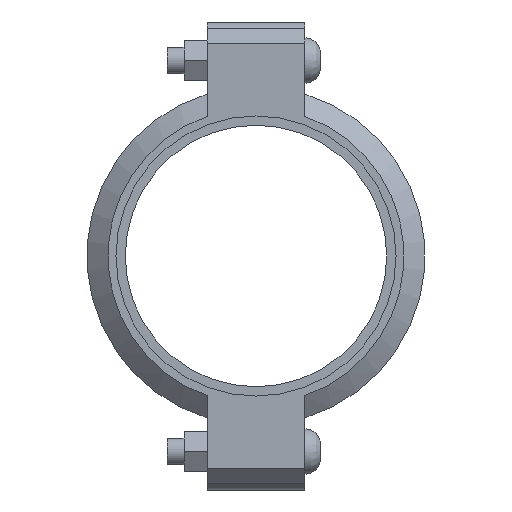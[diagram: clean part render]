
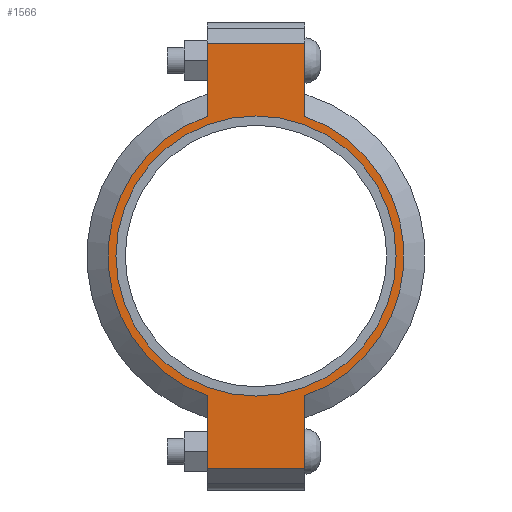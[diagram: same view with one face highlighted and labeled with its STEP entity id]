
A CAD part, left-side view. The second image highlights one B-rep face of the part: STEP entity #1566.
In plain terms, the highlighted planar face has unit normal (-1, 0, 0) as drawn and (0, 0, 1) by its records, which use the part's own axes.
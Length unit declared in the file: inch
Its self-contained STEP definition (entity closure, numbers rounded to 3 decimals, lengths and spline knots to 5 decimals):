
#190=LINE('',#2742,#283);
#198=LINE('',#2778,#291);
#205=LINE('',#2799,#298);
#214=LINE('',#2831,#307);
#215=LINE('',#2835,#308);
#216=LINE('',#2837,#309);
#283=VECTOR('',#2234,0.3937);
#291=VECTOR('',#2250,0.3937);
#298=VECTOR('',#2269,0.3937);
#307=VECTOR('',#2294,0.3937);
#308=VECTOR('',#2299,0.3937);
#309=VECTOR('',#2300,0.3937);
#365=FACE_BOUND('',#543,.T.);
#437=FACE_OUTER_BOUND('',#542,.T.);
#542=EDGE_LOOP('',(#1307,#1308,#1309,#1310,#1311,#1312,#1313,#1314));
#543=EDGE_LOOP('',(#1315));
#615=CIRCLE('',#1794,3.3125);
#641=CIRCLE('',#1853,3.5);
#642=CIRCLE('',#1854,3.5);
#707=VERTEX_POINT('',#2558);
#750=VERTEX_POINT('',#2739);
#751=VERTEX_POINT('',#2741);
#762=VERTEX_POINT('',#2773);
#763=VERTEX_POINT('',#2777);
#770=VERTEX_POINT('',#2796);
#771=VERTEX_POINT('',#2798);
#781=VERTEX_POINT('',#2834);
#782=VERTEX_POINT('',#2836);
#863=EDGE_CURVE('',#707,#707,#615,.T.);
#924=EDGE_CURVE('',#751,#750,#190,.T.);
#938=EDGE_CURVE('',#763,#762,#198,.T.);
#948=EDGE_CURVE('',#771,#770,#205,.T.);
#963=EDGE_CURVE('',#763,#750,#214,.T.);
#964=EDGE_CURVE('',#762,#771,#641,.T.);
#965=EDGE_CURVE('',#781,#770,#215,.T.);
#966=EDGE_CURVE('',#781,#782,#216,.T.);
#967=EDGE_CURVE('',#782,#751,#642,.T.);
#1307=ORIENTED_EDGE('',*,*,#963,.F.);
#1308=ORIENTED_EDGE('',*,*,#938,.T.);
#1309=ORIENTED_EDGE('',*,*,#964,.T.);
#1310=ORIENTED_EDGE('',*,*,#948,.T.);
#1311=ORIENTED_EDGE('',*,*,#965,.F.);
#1312=ORIENTED_EDGE('',*,*,#966,.T.);
#1313=ORIENTED_EDGE('',*,*,#967,.T.);
#1314=ORIENTED_EDGE('',*,*,#924,.T.);
#1315=ORIENTED_EDGE('',*,*,#863,.T.);
#1408=PLANE('',#1852);
#1566=ADVANCED_FACE('',(#437,#365),#1408,.T.);
#1794=AXIS2_PLACEMENT_3D('',#2560,#2110,#2111);
#1852=AXIS2_PLACEMENT_3D('',#2832,#2295,#2296);
#1853=AXIS2_PLACEMENT_3D('',#2833,#2297,#2298);
#1854=AXIS2_PLACEMENT_3D('',#2838,#2301,#2302);
#2110=DIRECTION('center_axis',(0.,0.,-1.));
#2111=DIRECTION('ref_axis',(1.,0.,0.));
#2234=DIRECTION('',(1.,0.,0.));
#2250=DIRECTION('',(-1.,0.,0.));
#2269=DIRECTION('',(-1.,0.,0.));
#2294=DIRECTION('',(0.,-1.,0.));
#2295=DIRECTION('center_axis',(0.,0.,1.));
#2296=DIRECTION('ref_axis',(-1.,0.,0.));
#2297=DIRECTION('center_axis',(0.,0.,1.));
#2298=DIRECTION('ref_axis',(1.,0.,0.));
#2299=DIRECTION('',(0.,1.,0.));
#2300=DIRECTION('',(1.,0.,0.));
#2301=DIRECTION('center_axis',(0.,0.,1.));
#2302=DIRECTION('ref_axis',(1.,0.,0.));
#2558=CARTESIAN_POINT('',(-3.3125,0.,1.065));
#2560=CARTESIAN_POINT('Origin',(0.,0.,1.065));
#2739=CARTESIAN_POINT('',(5.035,-1.156,1.065));
#2741=CARTESIAN_POINT('',(3.30358,-1.156,1.065));
#2742=CARTESIAN_POINT('',(5.535,-1.156,1.065));
#2773=CARTESIAN_POINT('',(3.30358,1.156,1.065));
#2777=CARTESIAN_POINT('',(5.035,1.156,1.065));
#2778=CARTESIAN_POINT('',(-5.535,1.156,1.065));
#2796=CARTESIAN_POINT('',(-5.035,1.156,1.065));
#2798=CARTESIAN_POINT('',(-3.30358,1.156,1.065));
#2799=CARTESIAN_POINT('',(-5.535,1.156,1.065));
#2831=CARTESIAN_POINT('',(5.035,-0.578,1.065));
#2832=CARTESIAN_POINT('Origin',(0.,0.,
1.065));
#2833=CARTESIAN_POINT('Origin',(0.,0.,1.065));
#2834=CARTESIAN_POINT('',(-5.035,-1.156,1.065));
#2835=CARTESIAN_POINT('',(-5.035,0.578,1.065));
#2836=CARTESIAN_POINT('',(-3.30358,-1.156,1.065));
#2837=CARTESIAN_POINT('',(5.535,-1.156,1.065));
#2838=CARTESIAN_POINT('Origin',(0.,0.,1.065));
